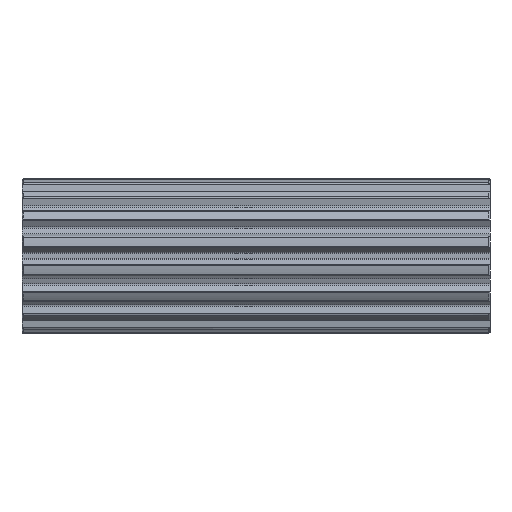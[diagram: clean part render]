
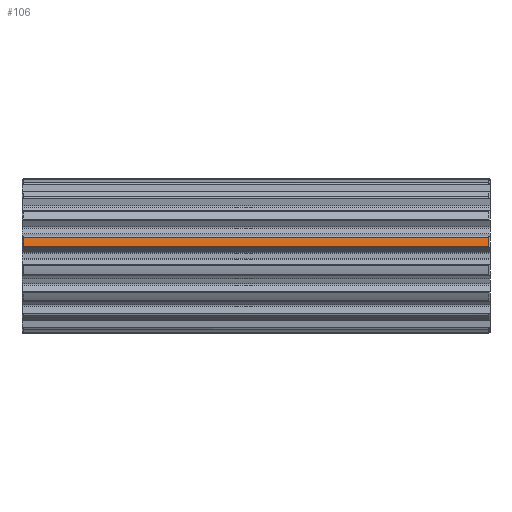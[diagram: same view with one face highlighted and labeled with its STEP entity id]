
A CAD part, front view. The second image highlights one B-rep face of the part: STEP entity #106.
In plain terms, the highlighted cylindrical face has radius 26.555 mm (diameter 53.11 mm), a partial arc.
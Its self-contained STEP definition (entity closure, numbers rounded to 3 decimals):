
#106=ADVANCED_FACE('',(#324),#325,.T.);
#324=FACE_OUTER_BOUND('',#698,.T.);
#325=CYLINDRICAL_SURFACE('',#699,26.555);
#698=EDGE_LOOP('',(#1258,#1259,#1260,#1261));
#699=AXIS2_PLACEMENT_3D('',#1262,#1263,#1264);
#1258=ORIENTED_EDGE('',*,*,#2781,.T.);
#1259=ORIENTED_EDGE('',*,*,#2782,.T.);
#1260=ORIENTED_EDGE('',*,*,#2783,.T.);
#1261=ORIENTED_EDGE('',*,*,#2784,.T.);
#1262=CARTESIAN_POINT('',(80.0,0.0,0.0));
#1263=DIRECTION('',(1.0,0.0,-0.0));
#1264=DIRECTION('',(0.0,0.184,0.983));
#2781=EDGE_CURVE('',#3433,#3442,#3444,.T.);
#2782=EDGE_CURVE('',#3442,#3445,#3446,.T.);
#2783=EDGE_CURVE('',#3445,#3447,#3448,.T.);
#2784=EDGE_CURVE('',#3447,#3433,#3449,.T.);
#3433=VERTEX_POINT('',#4873);
#3442=VERTEX_POINT('',#4907);
#3444=CIRCLE('',#4916,26.555);
#3445=VERTEX_POINT('',#4917);
#3446=LINE('',#4918,#4919);
#3447=VERTEX_POINT('',#4920);
#3448=CIRCLE('',#4921,26.555);
#3449=LINE('',#4922,#4923);
#4873=CARTESIAN_POINT('',(0.5,-25.757,6.461));
#4907=CARTESIAN_POINT('',(0.5,-26.352,3.28));
#4916=AXIS2_PLACEMENT_3D('',#6451,#6452,#6453);
#4917=CARTESIAN_POINT('',(159.5,-26.352,3.28));
#4918=CARTESIAN_POINT('',(80.0,-26.352,3.28));
#4919=VECTOR('',#6454,1.0);
#4920=CARTESIAN_POINT('',(159.5,-25.757,6.461));
#4921=AXIS2_PLACEMENT_3D('',#6455,#6456,#6457);
#4922=CARTESIAN_POINT('',(80.0,-25.757,6.461));
#4923=VECTOR('',#6458,1.0);
#6451=CARTESIAN_POINT('',(0.5,0.0,0.0));
#6452=DIRECTION('',(1.0,0.0,0.));
#6453=DIRECTION('',(0.,0.184,0.983));
#6454=DIRECTION('',(1.0,0.0,0.0));
#6455=CARTESIAN_POINT('',(159.5,0.0,0.0));
#6456=DIRECTION('',(-1.0,0.0,0.0));
#6457=DIRECTION('',(0.0,0.184,0.983));
#6458=DIRECTION('',(-1.0,0.0,0.0));
